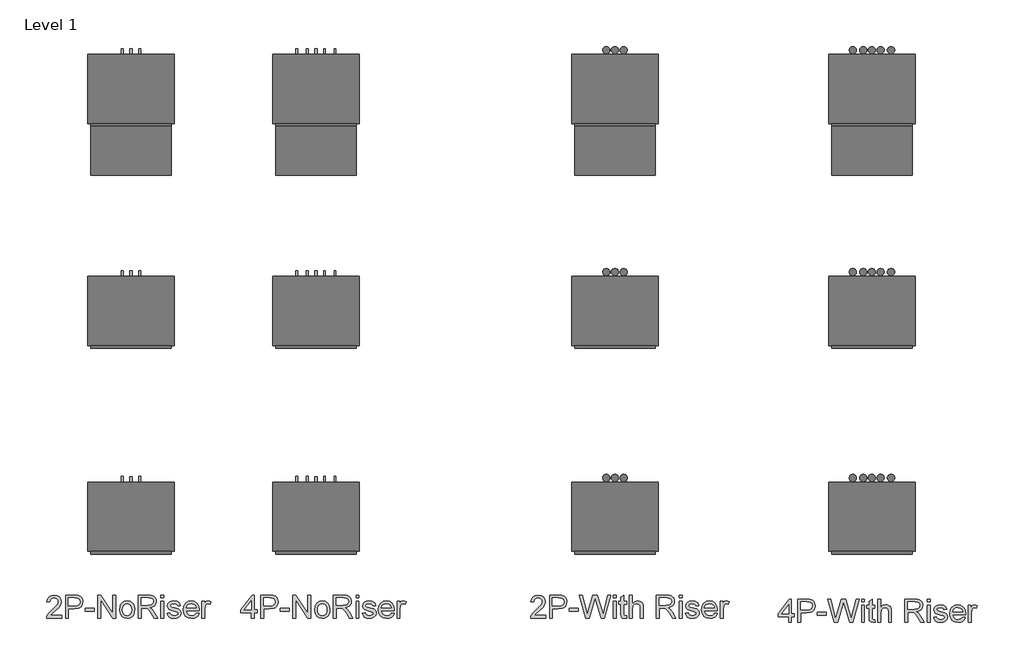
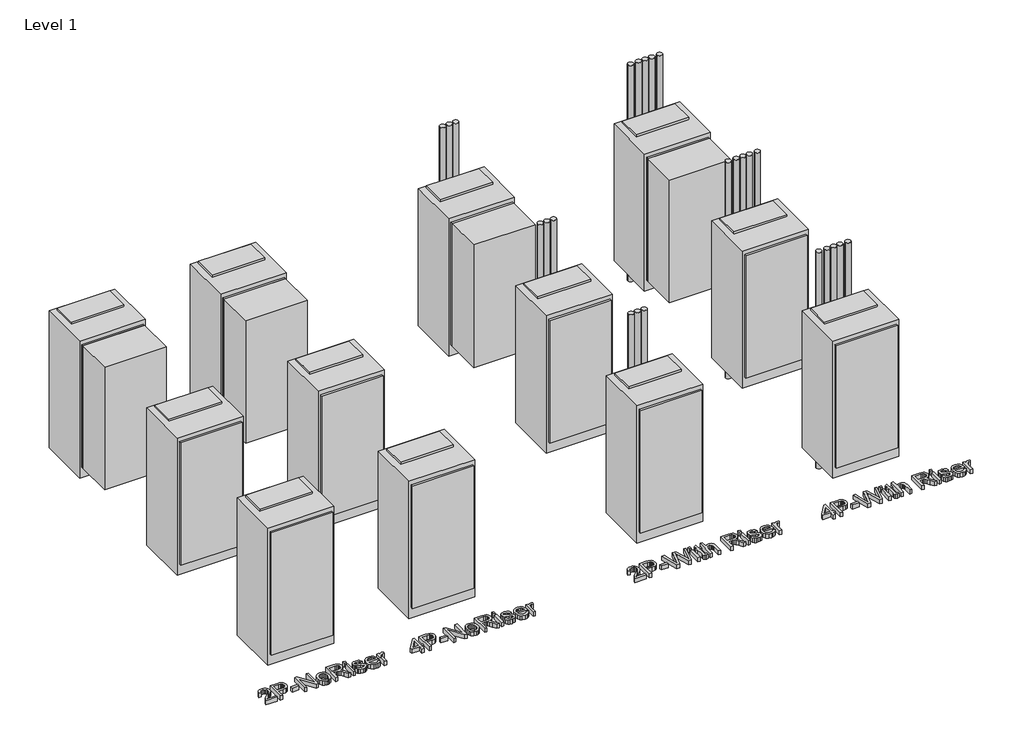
# One storey: 16 proxies.
"""IFC4 building model written with IfcOpenShell, lengths in millimetres."""

from ifc_helpers import new_model, si_unit, origin, origin_with_axes, place, context, project, spatial, polyline, outline, extrude, transform, mapped, element, save
from components import mechanical_equipment_e0f0739c, mechanical_equipment_ecb4c6be, mechanical_equipment_e25ba452, mechanical_equipment_c41c9c13, mechanical_equipment_80fa2937, mechanical_equipment_26e97b97, mechanical_equipment_36c7c29a, mechanical_equipment_b1ffde39

model = new_model("IFC4")

# Units and contexts
model_context = context("Model", 3, world=origin())
ifc_project = project(units=[si_unit("LENGTHUNIT", "METRE", prefix="MILLI")], contexts=[model_context])

# Site, building, storey
site = spatial("IfcSite", under=ifc_project)
building = spatial("IfcBuilding", under=site)
storey = spatial("IfcBuildingStorey", under=building, Name="Level 1", Elevation=0.0)

# Proxies
placement = place(None, origin())
mechanical_equipment_shape = mechanical_equipment_e0f0739c(model_context)
element("IfcBuildingElementProxy", 1, Name="Concealed_Modular_Fan_Coil_Unit_-_42SMA_-_CARRIER_-_2-Pipe_Cool-EHeat_-_NoRisers_2022 : Size 20 - 277v/60Hz/1Ph - 5 Row 12.0kW", ObjectType="Concealed_Modular_Fan_Coil_Unit_-_42SMA_-_CARRIER_-_2-Pipe_Cool-EHeat_-_NoRisers_2022 : Size 20 - 277v/60Hz/1Ph - 5 Row 12.0kW", at=placement, inside=storey, context=model_context, shape_type="MappedRepresentation", body=[
    mapped(mechanical_equipment_shape, transform((-20087.6915851, 2615.2980078, 0.0), x_axis=(1.0, 0.0, 0.0), y_axis=(0.0, 1.0, 0.0), z_axis=(0.0, 0.0, 1.0))),
])
mechanical_equipment_2_shape = mechanical_equipment_ecb4c6be(model_context)
element("IfcBuildingElementProxy", 2, Name="Concealed_Modular_Fan_Coil_Unit_-_42SMA_-_CARRIER_-_4-Pipe_-_NoRisers_2022 : Size 20 - 277v/60Hz/1Ph - 4/1 Coil", ObjectType="Concealed_Modular_Fan_Coil_Unit_-_42SMA_-_CARRIER_-_4-Pipe_-_NoRisers_2022 : Size 20 - 277v/60Hz/1Ph - 4/1 Coil", at=placement, inside=storey, context=model_context, shape_type="MappedRepresentation", body=[
    mapped(mechanical_equipment_2_shape, transform((-18457.1298194, 2615.2980078, 0.0), x_axis=(1.0, 0.0, 0.0), y_axis=(0.0, 1.0, 0.0), z_axis=(0.0, 0.0, 1.0))),
])
mechanical_equipment_3_shape = mechanical_equipment_e25ba452(model_context)
element("IfcBuildingElementProxy", 3, Name="Concealed_Modular_Fan_Coil_Unit_-_42SMA_-_CARRIER_-_2-Pipe_Cool-EHeat_-_WithRisers_2022 : Size 20 - 277v/60Hz/1Ph - 5 Row 12.0kW", ObjectType="Concealed_Modular_Fan_Coil_Unit_-_42SMA_-_CARRIER_-_2-Pipe_Cool-EHeat_-_WithRisers_2022 : Size 20 - 277v/60Hz/1Ph - 5 Row 12.0kW", at=placement, inside=storey, context=model_context, shape_type="MappedRepresentation", body=[
    mapped(mechanical_equipment_3_shape, transform((-15820.4915851, 2615.2980078, 0.0), x_axis=(1.0, 0.0, 0.0), y_axis=(0.0, 1.0, 0.0), z_axis=(0.0, 0.0, 1.0))),
])
mechanical_equipment_4_shape = mechanical_equipment_c41c9c13(model_context)
element("IfcBuildingElementProxy", 4, Name="Concealed_Modular_Fan_Coil_Unit_-_42SMA_-_CARRIER_-_4-Pipe_-_WithRisers_2022 : Size 20 - 277v/60Hz/1Ph - 4/1 Coil", ObjectType="Concealed_Modular_Fan_Coil_Unit_-_42SMA_-_CARRIER_-_4-Pipe_-_WithRisers_2022 : Size 20 - 277v/60Hz/1Ph - 4/1 Coil", at=placement, inside=storey, context=model_context, shape_type="MappedRepresentation", body=[
    mapped(mechanical_equipment_4_shape, transform((-13554.9298194, 2615.2980078, 0.0), x_axis=(1.0, 0.0, 0.0), y_axis=(0.0, 1.0, 0.0), z_axis=(0.0, 0.0, 1.0))),
])
mechanical_equipment_5_shape = mechanical_equipment_80fa2937(model_context)
element("IfcBuildingElementProxy", 5, Name="Concealed_Modular_Fan_Coil_Unit_-_42SMA_-_CARRIER_-_2-Pipe_Cool-EHeat_-_NoRisers_2022 : Size 16 - 277v/60Hz/1Ph - 5 Row 12.0kW", ObjectType="Concealed_Modular_Fan_Coil_Unit_-_42SMA_-_CARRIER_-_2-Pipe_Cool-EHeat_-_NoRisers_2022 : Size 16 - 277v/60Hz/1Ph - 5 Row 12.0kW", at=placement, inside=storey, context=model_context, shape_type="MappedRepresentation", body=[
    mapped(mechanical_equipment_5_shape, transform((-20087.6915851, 658.950504, 0.0), x_axis=(1.0, 0.0, 0.0), y_axis=(0.0, 1.0, 0.0), z_axis=(0.0, 0.0, 1.0))),
])
element("IfcBuildingElementProxy", 6, Name="Concealed_Modular_Fan_Coil_Unit_-_42SMA_-_CARRIER_-_2-Pipe_Cool-EHeat_-_NoRisers_2022 : Size 14 - 277v/60Hz/1Ph - 5 Row 12.0kW", ObjectType="Concealed_Modular_Fan_Coil_Unit_-_42SMA_-_CARRIER_-_2-Pipe_Cool-EHeat_-_NoRisers_2022 : Size 14 - 277v/60Hz/1Ph - 5 Row 12.0kW", at=placement, inside=storey, context=model_context, shape_type="MappedRepresentation", body=[
    mapped(mechanical_equipment_5_shape, transform((-20087.6915851, -1156.2031597, 0.0), x_axis=(1.0, 0.0, 0.0), y_axis=(0.0, 1.0, 0.0), z_axis=(0.0, 0.0, 1.0))),
])
mechanical_equipment_6_shape = mechanical_equipment_26e97b97(model_context)
element("IfcBuildingElementProxy", 7, Name="Concealed_Modular_Fan_Coil_Unit_-_42SMA_-_CARRIER_-_2-Pipe_Cool-EHeat_-_WithRisers_2022 : Size 16 - 277v/60Hz/1Ph - 5 Row 12.0kW", ObjectType="Concealed_Modular_Fan_Coil_Unit_-_42SMA_-_CARRIER_-_2-Pipe_Cool-EHeat_-_WithRisers_2022 : Size 16 - 277v/60Hz/1Ph - 5 Row 12.0kW", at=placement, inside=storey, context=model_context, shape_type="MappedRepresentation", body=[
    mapped(mechanical_equipment_6_shape, transform((-15820.4915851, 658.950504, 0.0), x_axis=(1.0, 0.0, 0.0), y_axis=(0.0, 1.0, 0.0), z_axis=(0.0, 0.0, 1.0))),
])
element("IfcBuildingElementProxy", 8, Name="Concealed_Modular_Fan_Coil_Unit_-_42SMA_-_CARRIER_-_2-Pipe_Cool-EHeat_-_WithRisers_2022 : Size 14 - 277v/60Hz/1Ph - 5 Row 12.0kW", ObjectType="Concealed_Modular_Fan_Coil_Unit_-_42SMA_-_CARRIER_-_2-Pipe_Cool-EHeat_-_WithRisers_2022 : Size 14 - 277v/60Hz/1Ph - 5 Row 12.0kW", at=placement, inside=storey, context=model_context, shape_type="MappedRepresentation", body=[
    mapped(mechanical_equipment_6_shape, transform((-15820.4915851, -1156.2031597, 0.0), x_axis=(1.0, 0.0, 0.0), y_axis=(0.0, 1.0, 0.0), z_axis=(0.0, 0.0, 1.0))),
])
mechanical_equipment_7_shape = mechanical_equipment_36c7c29a(model_context)
element("IfcBuildingElementProxy", 9, Name="Concealed_Modular_Fan_Coil_Unit_-_42SMA_-_CARRIER_-_4-Pipe_-_NoRisers_2022 : Size 16 - 277v/60Hz/1Ph - 4/1 Coil", ObjectType="Concealed_Modular_Fan_Coil_Unit_-_42SMA_-_CARRIER_-_4-Pipe_-_NoRisers_2022 : Size 16 - 277v/60Hz/1Ph - 4/1 Coil", at=placement, inside=storey, context=model_context, shape_type="MappedRepresentation", body=[
    mapped(mechanical_equipment_7_shape, transform((-18457.1298194, 658.950504, 0.0), x_axis=(1.0, 0.0, 0.0), y_axis=(0.0, 1.0, 0.0), z_axis=(0.0, 0.0, 1.0))),
])
element("IfcBuildingElementProxy", 10, Name="Concealed_Modular_Fan_Coil_Unit_-_42SMA_-_CARRIER_-_4-Pipe_-_NoRisers_2022 : Size 14 - 277v/60Hz/1Ph - 4/1 Coil", ObjectType="Concealed_Modular_Fan_Coil_Unit_-_42SMA_-_CARRIER_-_4-Pipe_-_NoRisers_2022 : Size 14 - 277v/60Hz/1Ph - 4/1 Coil", at=placement, inside=storey, context=model_context, shape_type="MappedRepresentation", body=[
    mapped(mechanical_equipment_7_shape, transform((-18457.1298194, -1156.2031597, 0.0), x_axis=(1.0, 0.0, 0.0), y_axis=(0.0, 1.0, 0.0), z_axis=(0.0, 0.0, 1.0))),
])
mechanical_equipment_8_shape = mechanical_equipment_b1ffde39(model_context)
element("IfcBuildingElementProxy", 11, Name="Concealed_Modular_Fan_Coil_Unit_-_42SMA_-_CARRIER_-_4-Pipe_-_WithRisers_2022 : Size 16 - 277v/60Hz/1Ph - 4/1 Coil", ObjectType="Concealed_Modular_Fan_Coil_Unit_-_42SMA_-_CARRIER_-_4-Pipe_-_WithRisers_2022 : Size 16 - 277v/60Hz/1Ph - 4/1 Coil", at=placement, inside=storey, context=model_context, shape_type="MappedRepresentation", body=[
    mapped(mechanical_equipment_8_shape, transform((-13554.9298194, 658.950504, 0.0), x_axis=(1.0, 0.0, 0.0), y_axis=(0.0, 1.0, 0.0), z_axis=(0.0, 0.0, 1.0))),
])
element("IfcBuildingElementProxy", 12, Name="Concealed_Modular_Fan_Coil_Unit_-_42SMA_-_CARRIER_-_4-Pipe_-_WithRisers_2022 : Size 14 - 277v/60Hz/1Ph - 4/1 Coil", ObjectType="Concealed_Modular_Fan_Coil_Unit_-_42SMA_-_CARRIER_-_4-Pipe_-_WithRisers_2022 : Size 14 - 277v/60Hz/1Ph - 4/1 Coil", at=placement, inside=storey, context=model_context, shape_type="MappedRepresentation", body=[
    mapped(mechanical_equipment_8_shape, transform((-13554.9298194, -1156.2031597, 0.0), x_axis=(1.0, 0.0, 0.0), y_axis=(0.0, 1.0, 0.0), z_axis=(0.0, 0.0, 1.0))),
])
element("IfcBuildingElementProxy", 13, Name="24\" Arial", ObjectType="24\" Arial", at=placement, inside=storey, context=model_context, shape_type="SweptSolid", body=[
    extrude(outline(polyline([(-20165.2964291, -2084.2431034), (-20165.2964291, -2109.6236945), (-20298.5445327, -2109.6236945), (-20295.818102, -2092.1249666), (-20280.4013758, -2065.1828742), (-20248.6260653, -2035.7622085), (-20204.8048884, -1993.477747), (-20196.5884177, -1978.9037357), (-20193.8495941, -1964.7262961), (-20196.4335069, -1952.0174112), (-20204.185245, -1941.4524923), (-20216.1009865, -1934.3327903), (-20231.1769089, -1931.9595563), (-20247.0087962, -1934.2770224), (-20259.3087165, -1941.2294207), (-20267.2463477, -1952.271465), (-20269.9913677, -1966.8578692), (-20295.3719588, -1963.6852953), (-20289.2189005, -1939.1350262), (-20275.915158, -1921.202548), (-20256.1547319, -1910.2348609), (-20230.6316228, -1906.5789652), (-20204.9226206, -1910.6438255), (-20185.1993731, -1922.8384064), (-20172.6515955, -1941.0559205), (-20168.469003, -1963.1895806), (-20172.9800065, -1987.2565279), (-20187.9753753, -2012.1414044), (-20224.3360464, -2046.9157886), (-20253.5336406, -2071.3297362), (-20264.9846495, -2084.2431034), (-20165.2964291, -2084.2431034)])), origin_with_axes(), (0.0, 0.0, 1.0), 50.8),
    extrude(outline(polyline([(-20130.3981162, -2109.6236945), (-20130.3981162, -1906.5789652), (-20055.1486291, -1906.5789652), (-20024.8108912, -1908.5122524), (-20000.1490863, -1918.0051883), (-19991.1828472, -1926.4199449), (-19984.1622882, -1937.6354893), (-19979.6264989, -1950.8648746), (-19978.1145692, -1965.3211537), (-19982.1980188, -1989.2517795), (-19994.4483676, -2009.1919021), (-20004.2588708, -2017.0427832), (-20017.3565818, -2022.6505554), (-20053.4136278, -2027.1367732), (-20105.017525, -2027.1367732), (-20105.017525, -2109.6236945), (-20130.3981162, -2109.6236945)]), holes=[polyline([(-20105.017525, -2001.756182), (-20051.9264837, -2001.756182), (-20029.4210377, -1999.4263231), (-20014.5495975, -1992.4367462), (-20006.2587696, -1981.2212018), (-20003.4951603, -1966.2134401), (-20005.1248223, -1954.8120027), (-20010.0138083, -1945.195138), (-20017.5548677, -1937.9577038), (-20027.1407502, -1933.6945577), (-20052.5213413, -1931.9595563), (-20105.017525, -1931.9595563), (-20105.017525, -2001.756182)])]), origin_with_axes(), (0.0, 0.0, 1.0), 50.8),
    extrude(outline(polyline([(-19959.0791258, -2049.3447905), (-19959.0791258, -2023.9641993), (-19879.7647784, -2023.9641993), (-19879.7647784, -2049.3447905), (-19959.0791258, -2049.3447905)])), origin_with_axes(), (0.0, 0.0, 1.0), 50.8),
    extrude(outline(polyline([(-19848.0390394, -2109.6236945), (-19848.0390394, -1906.5789652), (-19820.8738754, -1906.5789652), (-19714.7909358, -2067.438376), (-19714.7909358, -1906.5789652), (-19689.4103446, -1906.5789652), (-19689.4103446, -2109.6236945), (-19716.5755086, -2109.6236945), (-19822.6584482, -1948.7147122), (-19822.6584482, -2109.6236945), (-19848.0390394, -2109.6236945)])), origin_with_axes(), (0.0, 0.0, 1.0), 50.8),
    extrude(outline(polyline([(-19654.5120317, -2035.068208), (-19649.0219917, -1999.1165014), (-19642.1594418, -1985.1466423), (-19632.5518718, -1973.8474461), (-19612.2027845, -1961.4669721), (-19587.8384084, -1957.3401475), (-19561.1751555, -1962.365455), (-19539.878014, -1977.4413774), (-19525.9174496, -2001.3781996), (-19521.2639281, -2032.9862063), (-19523.321144, -2058.6270477), (-19529.4927916, -2078.1458129), (-19539.5991745, -2092.7631993), (-19553.460596, -2103.6999042), (-19569.9245195, -2110.5221774), (-19587.8384084, -2112.7962684), (-19614.8238759, -2107.7895502), (-19636.0962317, -2092.7693957), (-19649.9080817, -2068.3306624), (-19654.5120317, -2035.068208)]), holes=[polyline([(-19629.1314406, -2035.0186365), (-19626.1943311, -2057.9888151), (-19617.3830028, -2074.3535957), (-19604.1226354, -2084.1501569), (-19587.8384084, -2087.4156773), (-19571.6285387, -2084.1315676), (-19558.392957, -2074.2792385), (-19549.5816287, -2057.6975827), (-19546.6445192, -2034.225493), (-19549.600218, -2011.9245292), (-19558.4673142, -1995.7828203), (-19571.7214852, -1985.9862591), (-19587.8384084, -1982.7207387), (-19604.1226354, -1985.9738662), (-19617.3830028, -1995.7332488), (-19626.1943311, -2012.0608508), (-19629.1314406, -2035.0186365)])]), origin_with_axes(), (0.0, 0.0, 1.0), 50.8),
    extrude(outline(polyline([(-19489.5381891, -2109.6236945), (-19489.5381891, -1906.5789652), (-19402.0445496, -1906.5789652), (-19378.5290849, -1907.9483769), (-19361.4207323, -1912.0566123), (-19348.9163297, -1919.6410467), (-19339.212715, -1931.4390559), (-19332.9852995, -1946.0688352), (-19330.9094943, -1962.1485798), (-19334.3485148, -1982.1506668), (-19344.6655764, -1998.7323226), (-19362.1705007, -2010.8897249), (-19387.1731095, -2017.6190515), (-19372.7478125, -2028.4752028), (-19352.1756537, -2054.599366), (-19318.3183416, -2109.6236945), (-19347.8133646, -2109.6236945), (-19374.2349566, -2067.5375189), (-19393.3199714, -2039.6783544), (-19406.7290533, -2026.5171299), (-19418.7997055, -2021.6839118), (-19433.5224312, -2020.7916254), (-19464.1575979, -2020.7916254), (-19464.1575979, -2109.6236945), (-19489.5381891, -2109.6236945)]), holes=[polyline([(-19464.1575979, -1995.4110343), (-19407.3486966, -1995.4110343), (-19378.3741741, -1991.8171029), (-19368.8440595, -1987.1449921), (-19361.916447, -1980.3165225), (-19356.2900855, -1963.0904377), (-19358.9731411, -1950.7099638), (-19367.0223081, -1940.733706), (-19380.8713367, -1934.1530937), (-19400.9539773, -1931.9595563), (-19464.1575979, -1931.9595563), (-19464.1575979, -1995.4110343)])]), origin_with_axes(), (0.0, 0.0, 1.0), 50.8),
    extrude(outline(polyline([(-19289.6660336, -1931.9595563), (-19289.6660336, -1906.5789652), (-19264.2854425, -1906.5789652), (-19264.2854425, -1931.9595563), (-19289.6660336, -1931.9595563)])), origin_with_axes(), (0.0, 0.0, 1.0), 50.8),
    extrude(outline(polyline([(-19289.6660336, -2109.6236945), (-19289.6660336, -1960.5127214), (-19264.2854425, -1960.5127214), (-19264.2854425, -2109.6236945), (-19289.6660336, -2109.6236945)])), origin_with_axes(), (0.0, 0.0, 1.0), 50.8),
    extrude(outline(polyline([(-19235.7322774, -2065.20766), (-19210.3516862, -2062.0350861), (-19206.3487902, -2072.8912374), (-19198.6032485, -2080.8722436), (-19187.0654895, -2085.7798188), (-19171.6859418, -2087.4156773), (-19156.4922872, -2085.9161404), (-19145.809636, -2081.4175297), (-19139.4892739, -2074.8988818), (-19137.3824866, -2067.3392331), (-19139.5016668, -2060.8701566), (-19145.8592075, -2055.9377956), (-19171.9833707, -2048.7003614), (-19210.2029718, -2036.2827089), (-19219.8756043, -2030.0429005), (-19226.8837705, -2021.7830548), (-19232.5597035, -2001.3100388), (-19227.9991285, -1982.3985241), (-19215.5566903, -1967.9484415), (-19199.4211777, -1960.4383642), (-19177.5849464, -1957.3401475), (-19146.7019224, -1962.3220799), (-19135.1517706, -1968.1839059), (-19127.0716214, -1975.805519), (-19118.3470432, -1998.5836082), (-19143.7276344, -2001.756182), (-19146.9311904, -1993.7689794), (-19153.2701418, -1987.7522426), (-19175.6020878, -1982.7207387), (-19190.1760991, -1983.9228467), (-19199.8921066, -1987.529171), (-19205.3573609, -1992.734175), (-19207.1791123, -1998.7323226), (-19204.1552528, -2006.1184712), (-19194.6871026, -2011.7200469), (-19172.8260856, -2017.1233369), (-19135.573128, -2029.0700604), (-19118.272686, -2042.603071), (-19113.5695931, -2052.554543), (-19112.0018954, -2064.6623738), (-19113.8422361, -2077.1791693), (-19119.3632583, -2088.9523927), (-19128.3542831, -2099.0587756), (-19140.604632, -2106.5750493), (-19155.4017149, -2111.2409636), (-19172.0329421, -2112.7962684), (-19197.624212, -2109.7971947), (-19216.3002623, -2100.7999734), (-19228.7674863, -2085.9037475), (-19235.7322774, -2065.20766)])), origin_with_axes(), (0.0, 0.0, 1.0), 50.8),
    extrude(outline(polyline([(-18979.0512206, -2065.20766), (-18954.1663441, -2068.3802339), (-18963.1325832, -2087.1306413), (-18977.4401479, -2101.1469736), (-18996.7668236, -2109.8839447), (-19020.7903959, -2112.7962684), (-19050.5704548, -2107.7709609), (-19073.4848655, -2092.6950385), (-19088.0960554, -2068.5475376), (-19092.966452, -2036.3074946), (-19088.0464839, -2002.9830759), (-19081.8965238, -1989.4717528), (-19073.2865796, -1978.0610208), (-19050.6819906, -1962.5203658), (-19022.2279684, -1957.3401475), (-18994.6600363, -1962.5079729), (-18972.6317156, -1978.0114493), (-18958.1878293, -2002.8839329), (-18953.3732006, -2036.1587802), (-18953.521915, -2042.9996427), (-19067.5858609, -2042.9996427), (-19063.1925896, -2061.9979075), (-19052.9870638, -2075.9646683), (-19038.2581416, -2084.552925), (-19020.2946812, -2087.4156773), (-18995.4098047, -2082.1115303), (-18986.1647261, -2075.2334892), (-18979.0512206, -2065.20766)]), holes=[polyline([(-19067.5858609, -2017.6190515), (-18978.7537918, -2017.6190515), (-18982.1866159, -2004.2099697), (-18988.9159425, -1994.6178908), (-19003.7130255, -1985.6950267), (-19022.3271114, -1982.7207387), (-19039.435464, -1985.0939727), (-19053.5819214, -1992.2136746), (-19063.4156612, -2003.3114868), (-19067.5858609, -2017.6190515)])]), origin_with_axes(), (0.0, 0.0, 1.0), 50.8),
    extrude(outline(polyline([(-18927.9926094, -2109.6236945), (-18927.9926094, -1960.5127214), (-18905.7845921, -1960.5127214), (-18905.7845921, -1982.5720243), (-18890.0208656, -1962.2477227), (-18874.1579961, -1957.3401475), (-18861.517272, -1959.2982204), (-18848.678262, -1965.1724393), (-18857.1549829, -1987.9257427), (-18875.0007111, -1982.7207387), (-18889.3516508, -1987.7274568), (-18898.4975865, -2001.6074676), (-18902.6120182, -2031.251205), (-18902.6120182, -2109.6236945), (-18927.9926094, -2109.6236945)])), origin_with_axes(), (0.0, 0.0, 1.0), 50.8),
])
element("IfcBuildingElementProxy", 14, Name="24\" Arial", ObjectType="24\" Arial", at=placement, inside=storey, context=model_context, shape_type="SweptSolid", body=[
    extrude(outline(polyline([(-18492.6051491, -2109.6236945), (-18492.6051491, -2062.0350861), (-18584.6097921, -2062.0350861), (-18584.6097921, -2036.6544949), (-18486.2600013, -1909.751539), (-18467.2245579, -1909.751539), (-18467.2245579, -2036.6544949), (-18441.8439667, -2036.6544949), (-18441.8439667, -2062.0350861), (-18467.2245579, -2062.0350861), (-18467.2245579, -2109.6236945), (-18492.6051491, -2109.6236945)]), holes=[polyline([(-18492.6051491, -2036.6544949), (-18492.6051491, -1958.2324339), (-18553.3797678, -2036.6544949), (-18492.6051491, -2036.6544949)])]), origin_with_axes(), (0.0, 0.0, 1.0), 50.8),
    extrude(outline(polyline([(-18410.1182278, -2109.6236945), (-18410.1182278, -1906.5789652), (-18334.8687407, -1906.5789652), (-18304.5310028, -1908.5122524), (-18279.8691979, -1918.0051883), (-18270.9029588, -1926.4199449), (-18263.8823997, -1937.6354893), (-18259.3466105, -1950.8648746), (-18257.8346807, -1965.3211537), (-18261.9181303, -1989.2517795), (-18274.1684792, -2009.1919021), (-18283.9789823, -2017.0427832), (-18297.0766934, -2022.6505554), (-18333.1337393, -2027.1367732), (-18384.7376366, -2027.1367732), (-18384.7376366, -2109.6236945), (-18410.1182278, -2109.6236945)]), holes=[polyline([(-18384.7376366, -2001.756182), (-18331.6465953, -2001.756182), (-18309.1411492, -1999.4263231), (-18294.2697091, -1992.4367462), (-18285.9788812, -1981.2212018), (-18283.2152719, -1966.2134401), (-18284.8449339, -1954.8120027), (-18289.7339198, -1945.195138), (-18297.2749793, -1937.9577038), (-18306.8608617, -1933.6945577), (-18332.2414529, -1931.9595563), (-18384.7376366, -1931.9595563), (-18384.7376366, -2001.756182)])]), origin_with_axes(), (0.0, 0.0, 1.0), 50.8),
    extrude(outline(polyline([(-18238.7992374, -2049.3447905), (-18238.7992374, -2023.9641993), (-18159.4848899, -2023.9641993), (-18159.4848899, -2049.3447905), (-18238.7992374, -2049.3447905)])), origin_with_axes(), (0.0, 0.0, 1.0), 50.8),
    extrude(outline(polyline([(-18127.759151, -2109.6236945), (-18127.759151, -1906.5789652), (-18100.593987, -1906.5789652), (-17994.5110473, -2067.438376), (-17994.5110473, -1906.5789652), (-17969.1304562, -1906.5789652), (-17969.1304562, -2109.6236945), (-17996.2956201, -2109.6236945), (-18102.3785598, -1948.7147122), (-18102.3785598, -2109.6236945), (-18127.759151, -2109.6236945)])), origin_with_axes(), (0.0, 0.0, 1.0), 50.8),
    extrude(outline(polyline([(-17934.2321433, -2035.068208), (-17928.7421033, -1999.1165014), (-17921.8795533, -1985.1466423), (-17912.2719834, -1973.8474461), (-17891.9228961, -1961.4669721), (-17867.55852, -1957.3401475), (-17840.8952671, -1962.365455), (-17819.5981255, -1977.4413774), (-17805.6375611, -2001.3781996), (-17800.9840396, -2032.9862063), (-17803.0412555, -2058.6270477), (-17809.2129032, -2078.1458129), (-17819.319286, -2092.7631993), (-17833.1807075, -2103.6999042), (-17849.6446311, -2110.5221774), (-17867.55852, -2112.7962684), (-17894.5439874, -2107.7895502), (-17915.8163433, -2092.7693957), (-17929.6281933, -2068.3306624), (-17934.2321433, -2035.068208)]), holes=[polyline([(-17908.8515521, -2035.0186365), (-17905.9144427, -2057.9888151), (-17897.1031144, -2074.3535957), (-17883.8427469, -2084.1501569), (-17867.55852, -2087.4156773), (-17851.3486502, -2084.1315676), (-17838.1130685, -2074.2792385), (-17829.3017402, -2057.6975827), (-17826.3646308, -2034.225493), (-17829.3203295, -2011.9245292), (-17838.1874257, -1995.7828203), (-17851.4415967, -1985.9862591), (-17867.55852, -1982.7207387), (-17883.8427469, -1985.9738662), (-17897.1031144, -1995.7332488), (-17905.9144427, -2012.0608508), (-17908.8515521, -2035.0186365)])]), origin_with_axes(), (0.0, 0.0, 1.0), 50.8),
    extrude(outline(polyline([(-17769.2583007, -2109.6236945), (-17769.2583007, -1906.5789652), (-17681.7646612, -1906.5789652), (-17658.2491965, -1907.9483769), (-17641.1408439, -1912.0566123), (-17628.6364413, -1919.6410467), (-17618.9328266, -1931.4390559), (-17612.705411, -1946.0688352), (-17610.6296058, -1962.1485798), (-17614.0686264, -1982.1506668), (-17624.385688, -1998.7323226), (-17641.8906123, -2010.8897249), (-17666.893221, -2017.6190515), (-17652.4679241, -2028.4752028), (-17631.8957652, -2054.599366), (-17598.0384532, -2109.6236945), (-17627.5334761, -2109.6236945), (-17653.9550681, -2067.5375189), (-17673.040083, -2039.6783544), (-17686.4491648, -2026.5171299), (-17698.5198171, -2021.6839118), (-17713.2425428, -2020.7916254), (-17743.8777095, -2020.7916254), (-17743.8777095, -2109.6236945), (-17769.2583007, -2109.6236945)]), holes=[polyline([(-17743.8777095, -1995.4110343), (-17687.0688082, -1995.4110343), (-17658.0942856, -1991.8171029), (-17648.5641711, -1987.1449921), (-17641.6365585, -1980.3165225), (-17636.010197, -1963.0904377), (-17638.6932527, -1950.7099638), (-17646.7424196, -1940.733706), (-17660.5914483, -1934.1530937), (-17680.6740889, -1931.9595563), (-17743.8777095, -1931.9595563), (-17743.8777095, -1995.4110343)])]), origin_with_axes(), (0.0, 0.0, 1.0), 50.8),
    extrude(outline(polyline([(-17569.3861452, -1931.9595563), (-17569.3861452, -1906.5789652), (-17544.005554, -1906.5789652), (-17544.005554, -1931.9595563), (-17569.3861452, -1931.9595563)])), origin_with_axes(), (0.0, 0.0, 1.0), 50.8),
    extrude(outline(polyline([(-17569.3861452, -2109.6236945), (-17569.3861452, -1960.5127214), (-17544.005554, -1960.5127214), (-17544.005554, -2109.6236945), (-17569.3861452, -2109.6236945)])), origin_with_axes(), (0.0, 0.0, 1.0), 50.8),
    extrude(outline(polyline([(-17515.4523889, -2065.20766), (-17490.0717978, -2062.0350861), (-17486.0689018, -2072.8912374), (-17478.3233601, -2080.8722436), (-17466.7856011, -2085.7798188), (-17451.4060534, -2087.4156773), (-17436.2123987, -2085.9161404), (-17425.5297476, -2081.4175297), (-17419.2093855, -2074.8988818), (-17417.1025982, -2067.3392331), (-17419.2217784, -2060.8701566), (-17425.579319, -2055.9377956), (-17451.7034822, -2048.7003614), (-17489.9230834, -2036.2827089), (-17499.5957159, -2030.0429005), (-17506.6038821, -2021.7830548), (-17512.2798151, -2001.3100388), (-17507.7192401, -1982.3985241), (-17495.2768018, -1967.9484415), (-17479.1412893, -1960.4383642), (-17457.305058, -1957.3401475), (-17426.422034, -1962.3220799), (-17414.8718821, -1968.1839059), (-17406.791733, -1975.805519), (-17398.0671548, -1998.5836082), (-17423.4477459, -2001.756182), (-17426.651302, -1993.7689794), (-17432.9902534, -1987.7522426), (-17455.3221993, -1982.7207387), (-17469.8962107, -1983.9228467), (-17479.6122182, -1987.529171), (-17485.0774725, -1992.734175), (-17486.8992239, -1998.7323226), (-17483.8753644, -2006.1184712), (-17474.4072142, -2011.7200469), (-17452.5461972, -2017.1233369), (-17415.2932396, -2029.0700604), (-17397.9927976, -2042.603071), (-17393.2897046, -2052.554543), (-17391.722007, -2064.6623738), (-17393.5623477, -2077.1791693), (-17399.0833699, -2088.9523927), (-17408.0743947, -2099.0587756), (-17420.3247435, -2106.5750493), (-17435.1218265, -2111.2409636), (-17451.7530537, -2112.7962684), (-17477.3443236, -2109.7971947), (-17496.0203738, -2100.7999734), (-17508.4875978, -2085.9037475), (-17515.4523889, -2065.20766)])), origin_with_axes(), (0.0, 0.0, 1.0), 50.8),
    extrude(outline(polyline([(-17258.7713321, -2065.20766), (-17233.8864556, -2068.3802339), (-17242.8526947, -2087.1306413), (-17257.1602594, -2101.1469736), (-17276.4869352, -2109.8839447), (-17300.5105075, -2112.7962684), (-17330.2905663, -2107.7709609), (-17353.204977, -2092.6950385), (-17367.816167, -2068.5475376), (-17372.6865636, -2036.3074946), (-17367.7665955, -2002.9830759), (-17361.6166353, -1989.4717528), (-17353.0066912, -1978.0610208), (-17330.4021021, -1962.5203658), (-17301.94808, -1957.3401475), (-17274.3801478, -1962.5079729), (-17252.3518271, -1978.0114493), (-17237.9079409, -2002.8839329), (-17233.0933122, -2036.1587802), (-17233.2420266, -2042.9996427), (-17347.3059724, -2042.9996427), (-17342.9127012, -2061.9979075), (-17332.7071754, -2075.9646683), (-17317.9782532, -2084.552925), (-17300.0147928, -2087.4156773), (-17275.1299163, -2082.1115303), (-17265.8848377, -2075.2334892), (-17258.7713321, -2065.20766)]), holes=[polyline([(-17347.3059724, -2017.6190515), (-17258.4739033, -2017.6190515), (-17261.9067274, -2004.2099697), (-17268.6360541, -1994.6178908), (-17283.433137, -1985.6950267), (-17302.0472229, -1982.7207387), (-17319.1555755, -1985.0939727), (-17333.302033, -1992.2136746), (-17343.1357728, -2003.3114868), (-17347.3059724, -2017.6190515)])]), origin_with_axes(), (0.0, 0.0, 1.0), 50.8),
    extrude(outline(polyline([(-17207.712721, -2109.6236945), (-17207.712721, -1960.5127214), (-17185.5047037, -1960.5127214), (-17185.5047037, -1982.5720243), (-17169.7409772, -1962.2477227), (-17153.8781077, -1957.3401475), (-17141.2373836, -1959.2982204), (-17128.3983736, -1965.1724393), (-17136.8750944, -1987.9257427), (-17154.7208226, -1982.7207387), (-17169.0717624, -1987.7274568), (-17178.217698, -2001.6074676), (-17182.3321298, -2031.251205), (-17182.3321298, -2109.6236945), (-17207.712721, -2109.6236945)])), origin_with_axes(), (0.0, 0.0, 1.0), 50.8),
])
element("IfcBuildingElementProxy", 15, Name="24\" Arial", ObjectType="24\" Arial", at=placement, inside=storey, context=model_context, shape_type="SweptSolid", body=[
    extrude(outline(polyline([(-15898.0964291, -2084.2431034), (-15898.0964291, -2109.6236945), (-16031.3445327, -2109.6236945), (-16028.618102, -2092.1249666), (-16013.2013758, -2065.1828742), (-15981.4260653, -2035.7622085), (-15937.6048884, -1993.477747), (-15929.3884177, -1978.9037357), (-15926.6495941, -1964.7262961), (-15929.2335069, -1952.0174112), (-15936.985245, -1941.4524923), (-15948.9009865, -1934.3327903), (-15963.9769089, -1931.9595563), (-15979.8087962, -1934.2770224), (-15992.1087165, -1941.2294207), (-16000.0463477, -1952.271465), (-16002.7913677, -1966.8578692), (-16028.1719588, -1963.6852953), (-16022.0189005, -1939.1350262), (-16008.715158, -1921.202548), (-15988.9547319, -1910.2348609), (-15963.4316228, -1906.5789652), (-15937.7226206, -1910.6438255), (-15917.9993731, -1922.8384064), (-15905.4515955, -1941.0559205), (-15901.269003, -1963.1895806), (-15905.7800065, -1987.2565279), (-15920.7753753, -2012.1414044), (-15957.1360464, -2046.9157886), (-15986.3336406, -2071.3297362), (-15997.7846495, -2084.2431034), (-15898.0964291, -2084.2431034)])), origin_with_axes(), (0.0, 0.0, 1.0), 50.8),
    extrude(outline(polyline([(-15863.1981162, -2109.6236945), (-15863.1981162, -1906.5789652), (-15787.9486291, -1906.5789652), (-15757.6108912, -1908.5122524), (-15732.9490863, -1918.0051883), (-15723.9828472, -1926.4199449), (-15716.9622882, -1937.6354893), (-15712.4264989, -1950.8648746), (-15710.9145692, -1965.3211537), (-15714.9980188, -1989.2517795), (-15727.2483676, -2009.1919021), (-15737.0588708, -2017.0427832), (-15750.1565818, -2022.6505554), (-15786.2136278, -2027.1367732), (-15837.817525, -2027.1367732), (-15837.817525, -2109.6236945), (-15863.1981162, -2109.6236945)]), holes=[polyline([(-15837.817525, -2001.756182), (-15784.7264837, -2001.756182), (-15762.2210377, -1999.4263231), (-15747.3495975, -1992.4367462), (-15739.0587696, -1981.2212018), (-15736.2951603, -1966.2134401), (-15737.9248223, -1954.8120027), (-15742.8138083, -1945.195138), (-15750.3548677, -1937.9577038), (-15759.9407502, -1933.6945577), (-15785.3213413, -1931.9595563), (-15837.817525, -1931.9595563), (-15837.817525, -2001.756182)])]), origin_with_axes(), (0.0, 0.0, 1.0), 50.8),
    extrude(outline(polyline([(-15691.8791258, -2049.3447905), (-15691.8791258, -2023.9641993), (-15612.5647784, -2023.9641993), (-15612.5647784, -2049.3447905), (-15691.8791258, -2049.3447905)])), origin_with_axes(), (0.0, 0.0, 1.0), 50.8),
    extrude(outline(polyline([(-15544.503154, -2109.6236945), (-15599.8744828, -1906.5789652), (-15573.7007482, -1906.5789652), (-15541.5784374, -2040.0253547), (-15531.664144, -2081.2192439), (-15521.0558501, -2044.7842155), (-15480.8038187, -1906.5789652), (-15443.0799323, -1906.5789652), (-15413.8327666, -2006.7629002), (-15401.3035783, -2043.9415006), (-15392.0708926, -2081.2192439), (-15382.4540279, -2041.2150699), (-15350.0342884, -1906.5789652), (-15323.8605538, -1906.5789652), (-15379.2814541, -2109.6236945), (-15406.3970466, -2109.6236945), (-15455.0762273, -1952.9778584), (-15461.8675183, -1931.1168414), (-15469.5015242, -1957.4392904), (-15513.8679873, -2109.6236945), (-15544.503154, -2109.6236945)])), origin_with_axes(), (0.0, 0.0, 1.0), 50.8),
    extrude(outline(polyline([(-15301.6525365, -1931.9595563), (-15301.6525365, -1906.5789652), (-15276.2719453, -1906.5789652), (-15276.2719453, -1931.9595563), (-15301.6525365, -1931.9595563)])), origin_with_axes(), (0.0, 0.0, 1.0), 50.8),
    extrude(outline(polyline([(-15301.6525365, -2109.6236945), (-15301.6525365, -1960.5127214), (-15276.2719453, -1960.5127214), (-15276.2719453, -2109.6236945), (-15301.6525365, -2109.6236945)])), origin_with_axes(), (0.0, 0.0, 1.0), 50.8),
    extrude(outline(polyline([(-15184.2673023, -2088.4566781), (-15181.0947285, -2110.3672665), (-15200.0806004, -2112.7962684), (-15221.3467598, -2108.5826937), (-15231.9550537, -2097.5282565), (-15235.0284847, -2068.7272341), (-15235.0284847, -1985.8933126), (-15254.0639281, -1985.8933126), (-15254.0639281, -1960.5127214), (-15235.0284847, -1960.5127214), (-15235.0284847, -1924.2759789), (-15209.6478935, -1909.3549673), (-15209.6478935, -1960.5127214), (-15184.2673023, -1960.5127214), (-15184.2673023, -1985.8933126), (-15209.6478935, -1985.8933126), (-15209.6478935, -2067.9836621), (-15208.3094639, -2081.0705295), (-15203.9719605, -2085.7054616), (-15195.3217395, -2087.4156773), (-15184.2673023, -2088.4566781)])), origin_with_axes(), (0.0, 0.0, 1.0), 50.8),
    extrude(outline(polyline([(-15158.8867112, -2109.6236945), (-15158.8867112, -1906.5789652), (-15133.50612, -1906.5789652), (-15133.50612, -1981.2335947), (-15113.7147118, -1963.3135093), (-15089.3379428, -1957.3401475), (-15074.0079666, -1958.9698095), (-15060.8343492, -1963.8587954), (-15050.4615197, -1971.6229265), (-15043.5339072, -1981.8780237), (-15039.6301541, -1995.9687133), (-15038.3289031, -2015.2396211), (-15038.3289031, -2109.6236945), (-15063.7094943, -2109.6236945), (-15063.7094943, -2017.8669089), (-15065.7295316, -2001.9792536), (-15071.7896434, -1991.0983166), (-15081.5552224, -1984.8151332), (-15094.6916612, -1982.7207387), (-15115.4868917, -1988.3718859), (-15123.827291, -1995.0268554), (-15129.3669025, -2003.6894693), (-15133.50612, -2030.4084901), (-15133.50612, -2109.6236945), (-15158.8867112, -2109.6236945)])), origin_with_axes(), (0.0, 0.0, 1.0), 50.8),
    extrude(outline(polyline([(-14920.9436689, -2109.6236945), (-14920.9436689, -1906.5789652), (-14833.4500294, -1906.5789652), (-14809.9345647, -1907.9483769), (-14792.8262121, -1912.0566123), (-14780.3218095, -1919.6410467), (-14770.6181949, -1931.4390559), (-14764.3907793, -1946.0688352), (-14762.3149741, -1962.1485798), (-14765.7539946, -1982.1506668), (-14776.0710562, -1998.7323226), (-14793.5759806, -2010.8897249), (-14818.5785893, -2017.6190515), (-14804.1532924, -2028.4752028), (-14783.5811335, -2054.599366), (-14749.7238215, -2109.6236945), (-14779.2188444, -2109.6236945), (-14805.6404364, -2067.5375189), (-14824.7254512, -2039.6783544), (-14838.1345331, -2026.5171299), (-14850.2051853, -2021.6839118), (-14864.9279111, -2020.7916254), (-14895.5630778, -2020.7916254), (-14895.5630778, -2109.6236945), (-14920.9436689, -2109.6236945)]), holes=[polyline([(-14895.5630778, -1995.4110343), (-14838.7541764, -1995.4110343), (-14809.7796539, -1991.8171029), (-14800.2495393, -1987.1449921), (-14793.3219268, -1980.3165225), (-14787.6955653, -1963.0904377), (-14790.3786209, -1950.7099638), (-14798.4277879, -1940.733706), (-14812.2768165, -1934.1530937), (-14832.3594572, -1931.9595563), (-14895.5630778, -1931.9595563), (-14895.5630778, -1995.4110343)])]), origin_with_axes(), (0.0, 0.0, 1.0), 50.8),
    extrude(outline(polyline([(-14721.0715135, -1931.9595563), (-14721.0715135, -1906.5789652), (-14695.6909223, -1906.5789652), (-14695.6909223, -1931.9595563), (-14721.0715135, -1931.9595563)])), origin_with_axes(), (0.0, 0.0, 1.0), 50.8),
    extrude(outline(polyline([(-14721.0715135, -2109.6236945), (-14721.0715135, -1960.5127214), (-14695.6909223, -1960.5127214), (-14695.6909223, -2109.6236945), (-14721.0715135, -2109.6236945)])), origin_with_axes(), (0.0, 0.0, 1.0), 50.8),
    extrude(outline(polyline([(-14667.1377572, -2065.20766), (-14641.757166, -2062.0350861), (-14637.7542701, -2072.8912374), (-14630.0087283, -2080.8722436), (-14618.4709694, -2085.7798188), (-14603.0914217, -2087.4156773), (-14587.897767, -2085.9161404), (-14577.2151158, -2081.4175297), (-14570.8947538, -2074.8988818), (-14568.7879664, -2067.3392331), (-14570.9071466, -2060.8701566), (-14577.2646873, -2055.9377956), (-14603.3888505, -2048.7003614), (-14641.6084516, -2036.2827089), (-14651.2810842, -2030.0429005), (-14658.2892503, -2021.7830548), (-14663.9651833, -2001.3100388), (-14659.4046083, -1982.3985241), (-14646.9621701, -1967.9484415), (-14630.8266575, -1960.4383642), (-14608.9904263, -1957.3401475), (-14578.1074022, -1962.3220799), (-14566.5572504, -1968.1839059), (-14558.4771013, -1975.805519), (-14549.752523, -1998.5836082), (-14575.1331142, -2001.756182), (-14578.3366703, -1993.7689794), (-14584.6756216, -1987.7522426), (-14607.0075676, -1982.7207387), (-14621.5815789, -1983.9228467), (-14631.2975865, -1987.529171), (-14636.7628407, -1992.734175), (-14638.5845921, -1998.7323226), (-14635.5607326, -2006.1184712), (-14626.0925824, -2011.7200469), (-14604.2315654, -2017.1233369), (-14566.9786079, -2029.0700604), (-14549.6781658, -2042.603071), (-14544.9750729, -2052.554543), (-14543.4073752, -2064.6623738), (-14545.247716, -2077.1791693), (-14550.7687381, -2088.9523927), (-14559.759763, -2099.0587756), (-14572.0101118, -2106.5750493), (-14586.8071947, -2111.2409636), (-14603.4384219, -2112.7962684), (-14629.0296919, -2109.7971947), (-14647.7057421, -2100.7999734), (-14660.1729661, -2085.9037475), (-14667.1377572, -2065.20766)])), origin_with_axes(), (0.0, 0.0, 1.0), 50.8),
    extrude(outline(polyline([(-14410.4567004, -2065.20766), (-14385.5718239, -2068.3802339), (-14394.538063, -2087.1306413), (-14408.8456277, -2101.1469736), (-14428.1723035, -2109.8839447), (-14452.1958757, -2112.7962684), (-14481.9759346, -2107.7709609), (-14504.8903453, -2092.6950385), (-14519.5015352, -2068.5475376), (-14524.3719319, -2036.3074946), (-14519.4519638, -2002.9830759), (-14513.3020036, -1989.4717528), (-14504.6920594, -1978.0610208), (-14482.0874704, -1962.5203658), (-14453.6334483, -1957.3401475), (-14426.0655161, -1962.5079729), (-14404.0371954, -1978.0114493), (-14389.5933092, -2002.8839329), (-14384.7786804, -2036.1587802), (-14384.9273948, -2042.9996427), (-14498.9913407, -2042.9996427), (-14494.5980694, -2061.9979075), (-14484.3925436, -2075.9646683), (-14469.6636215, -2084.552925), (-14451.7001611, -2087.4156773), (-14426.8152845, -2082.1115303), (-14417.5702059, -2075.2334892), (-14410.4567004, -2065.20766)]), holes=[polyline([(-14498.9913407, -2017.6190515), (-14410.1592716, -2017.6190515), (-14413.5920957, -2004.2099697), (-14420.3214224, -1994.6178908), (-14435.1185053, -1985.6950267), (-14453.7325912, -1982.7207387), (-14470.8409438, -1985.0939727), (-14484.9874012, -1992.2136746), (-14494.821141, -2003.3114868), (-14498.9913407, -2017.6190515)])]), origin_with_axes(), (0.0, 0.0, 1.0), 50.8),
    extrude(outline(polyline([(-14359.3980892, -2109.6236945), (-14359.3980892, -1960.5127214), (-14337.190072, -1960.5127214), (-14337.190072, -1982.5720243), (-14321.4263454, -1962.2477227), (-14305.5634759, -1957.3401475), (-14292.9227518, -1959.2982204), (-14280.0837418, -1965.1724393), (-14288.5604627, -1987.9257427), (-14306.4061909, -1982.7207387), (-14320.7571306, -1987.7274568), (-14329.9030663, -2001.6074676), (-14334.0174981, -2031.251205), (-14334.0174981, -2109.6236945), (-14359.3980892, -2109.6236945)])), origin_with_axes(), (0.0, 0.0, 1.0), 50.8),
])
element("IfcBuildingElementProxy", 16, Name="24\" Arial", ObjectType="24\" Arial", at=placement, inside=storey, context=model_context, shape_type="SweptSolid", body=[
    extrude(outline(polyline([(-13756.6818065, -2144.4941959), (-13756.6818065, -2096.9055875), (-13848.6864495, -2096.9055875), (-13848.6864495, -2071.5249963), (-13750.3366587, -1944.6220404), (-13731.3012153, -1944.6220404), (-13731.3012153, -2071.5249963), (-13705.9206241, -2071.5249963), (-13705.9206241, -2096.9055875), (-13731.3012153, -2096.9055875), (-13731.3012153, -2144.4941959), (-13756.6818065, -2144.4941959)]), holes=[polyline([(-13756.6818065, -2071.5249963), (-13756.6818065, -1993.1029353), (-13817.4564252, -2071.5249963), (-13756.6818065, -2071.5249963)])]), origin_with_axes(), (0.0, 0.0, 1.0), 50.8),
    extrude(outline(polyline([(-13674.1948852, -2144.4941959), (-13674.1948852, -1941.4494665), (-13598.9453981, -1941.4494665), (-13568.6076602, -1943.3827537), (-13543.9458553, -1952.8756897), (-13534.9796162, -1961.2904463), (-13527.9590571, -1972.5059907), (-13523.4232679, -1985.735376), (-13521.9113381, -2000.1916551), (-13525.9947878, -2024.1222808), (-13538.2451366, -2044.0624035), (-13548.0556397, -2051.9132846), (-13561.1533508, -2057.5210568), (-13597.2103967, -2062.0072746), (-13648.814294, -2062.0072746), (-13648.814294, -2144.4941959), (-13674.1948852, -2144.4941959)]), holes=[polyline([(-13648.814294, -2036.6266834), (-13595.7232527, -2036.6266834), (-13573.2178066, -2034.2968245), (-13558.3463665, -2027.3072476), (-13550.0555386, -2016.0917032), (-13547.2919293, -2001.0839415), (-13548.9215913, -1989.6825041), (-13553.8105772, -1980.0656394), (-13561.3516367, -1972.8282052), (-13570.9375191, -1968.5650591), (-13596.3181103, -1966.8300577), (-13648.814294, -1966.8300577), (-13648.814294, -2036.6266834)])]), origin_with_axes(), (0.0, 0.0, 1.0), 50.8),
    extrude(outline(polyline([(-13502.8758948, -2084.2152919), (-13502.8758948, -2058.8347007), (-13423.5615474, -2058.8347007), (-13423.5615474, -2084.2152919), (-13502.8758948, -2084.2152919)])), origin_with_axes(), (0.0, 0.0, 1.0), 50.8),
    extrude(outline(polyline([(-13355.499923, -2144.4941959), (-13410.8712518, -1941.4494665), (-13384.6975171, -1941.4494665), (-13352.5752064, -2074.8958561), (-13342.660913, -2116.0897452), (-13332.052619, -2079.6547169), (-13291.8005877, -1941.4494665), (-13254.0767012, -1941.4494665), (-13224.8295356, -2041.6334016), (-13212.3003473, -2078.812002), (-13203.0676615, -2116.0897452), (-13193.4507969, -2076.0855713), (-13161.0310574, -1941.4494665), (-13134.8573228, -1941.4494665), (-13190.278223, -2144.4941959), (-13217.3938155, -2144.4941959), (-13266.0729963, -1987.8483598), (-13272.8642873, -1965.9873428), (-13280.4982932, -1992.3097918), (-13324.8647563, -2144.4941959), (-13355.499923, -2144.4941959)])), origin_with_axes(), (0.0, 0.0, 1.0), 50.8),
    extrude(outline(polyline([(-13112.6493055, -1966.8300577), (-13112.6493055, -1941.4494665), (-13087.2687143, -1941.4494665), (-13087.2687143, -1966.8300577), (-13112.6493055, -1966.8300577)])), origin_with_axes(), (0.0, 0.0, 1.0), 50.8),
    extrude(outline(polyline([(-13112.6493055, -2144.4941959), (-13112.6493055, -1995.3832228), (-13087.2687143, -1995.3832228), (-13087.2687143, -2144.4941959), (-13112.6493055, -2144.4941959)])), origin_with_axes(), (0.0, 0.0, 1.0), 50.8),
    extrude(outline(polyline([(-12995.2640713, -2123.3271794), (-12992.0914974, -2145.2377679), (-13011.0773693, -2147.6667698), (-13032.3435287, -2143.4531951), (-13042.9518227, -2132.3987579), (-13046.0252537, -2103.5977355), (-13046.0252537, -2020.7638139), (-13065.060697, -2020.7638139), (-13065.060697, -1995.3832228), (-13046.0252537, -1995.3832228), (-13046.0252537, -1959.1464803), (-13020.6446625, -1944.2254687), (-13020.6446625, -1995.3832228), (-12995.2640713, -1995.3832228), (-12995.2640713, -2020.7638139), (-13020.6446625, -2020.7638139), (-13020.6446625, -2102.8541635), (-13019.3062329, -2115.9410308), (-13014.9687295, -2120.575963), (-13006.3185085, -2122.2861786), (-12995.2640713, -2123.3271794)])), origin_with_axes(), (0.0, 0.0, 1.0), 50.8),
    extrude(outline(polyline([(-12969.8834801, -2144.4941959), (-12969.8834801, -1941.4494665), (-12944.502889, -1941.4494665), (-12944.502889, -2016.104096), (-12924.7114807, -1998.1840107), (-12900.3347118, -1992.2106489), (-12885.0047355, -1993.8403109), (-12871.8311182, -1998.7292968), (-12861.4582887, -2006.4934278), (-12854.5306761, -2016.7485251), (-12850.6269231, -2030.8392146), (-12849.3256721, -2050.1101225), (-12849.3256721, -2144.4941959), (-12874.7062632, -2144.4941959), (-12874.7062632, -2052.7374102), (-12876.7263005, -2036.849755), (-12882.7864124, -2025.968818), (-12892.5519914, -2019.6856345), (-12905.6884302, -2017.59124), (-12926.4836607, -2023.2423873), (-12934.82406, -2029.8973568), (-12940.3636715, -2038.5599706), (-12944.502889, -2065.2789914), (-12944.502889, -2144.4941959), (-12969.8834801, -2144.4941959)])), origin_with_axes(), (0.0, 0.0, 1.0), 50.8),
    extrude(outline(polyline([(-12731.9404379, -2144.4941959), (-12731.9404379, -1941.4494665), (-12644.4467984, -1941.4494665), (-12620.9313337, -1942.8188783), (-12603.8229811, -1946.9271136), (-12591.3185785, -1954.5115481), (-12581.6149638, -1966.3095573), (-12575.3875483, -1980.9393365), (-12573.3117431, -1997.0190812), (-12576.7507636, -2017.0211682), (-12587.0678252, -2033.6028239), (-12604.5727495, -2045.7602262), (-12629.5753583, -2052.4895529), (-12615.1500613, -2063.3457042), (-12594.5779025, -2089.4698674), (-12560.7205904, -2144.4941959), (-12590.2156134, -2144.4941959), (-12616.6372054, -2102.4080203), (-12635.7222202, -2074.5488558), (-12649.1313021, -2061.3876313), (-12661.2019543, -2056.5544132), (-12675.92468, -2055.6621268), (-12706.5598467, -2055.6621268), (-12706.5598467, -2144.4941959), (-12731.9404379, -2144.4941959)]), holes=[polyline([(-12706.5598467, -2030.2815356), (-12649.7509454, -2030.2815356), (-12620.7764229, -2026.6876043), (-12611.2463083, -2022.0154935), (-12604.3186958, -2015.1870239), (-12598.6923343, -1997.9609391), (-12601.3753899, -1985.5804651), (-12609.4245569, -1975.6042074), (-12623.2735855, -1969.0235951), (-12643.3562261, -1966.8300577), (-12706.5598467, -1966.8300577), (-12706.5598467, -2030.2815356)])]), origin_with_axes(), (0.0, 0.0, 1.0), 50.8),
    extrude(outline(polyline([(-12532.0682824, -1966.8300577), (-12532.0682824, -1941.4494665), (-12506.6876913, -1941.4494665), (-12506.6876913, -1966.8300577), (-12532.0682824, -1966.8300577)])), origin_with_axes(), (0.0, 0.0, 1.0), 50.8),
    extrude(outline(polyline([(-12532.0682824, -2144.4941959), (-12532.0682824, -1995.3832228), (-12506.6876913, -1995.3832228), (-12506.6876913, -2144.4941959), (-12532.0682824, -2144.4941959)])), origin_with_axes(), (0.0, 0.0, 1.0), 50.8),
    extrude(outline(polyline([(-12478.1345262, -2100.0781614), (-12452.753935, -2096.9055875), (-12448.751039, -2107.7617388), (-12441.0054973, -2115.742745), (-12429.4677383, -2120.6503202), (-12414.0881906, -2122.2861786), (-12398.894536, -2120.7866418), (-12388.2118848, -2116.2880311), (-12381.8915227, -2109.7693832), (-12379.7847354, -2102.2097344), (-12381.9039156, -2095.740658), (-12388.2614563, -2090.808297), (-12414.3856194, -2083.5708628), (-12452.6052206, -2071.1532103), (-12462.2778531, -2064.9134019), (-12469.2860193, -2056.6535561), (-12474.9619523, -2036.1805402), (-12470.4013773, -2017.2690255), (-12457.9589391, -2002.8189428), (-12441.8234265, -1995.3088656), (-12419.9871952, -1992.2106489), (-12389.1041712, -1997.1925813), (-12377.5540194, -2003.0544073), (-12369.4738702, -2010.6760204), (-12360.749292, -2033.4541095), (-12386.1298832, -2036.6266834), (-12389.3334392, -2028.6394808), (-12395.6723906, -2022.622744), (-12418.0043365, -2017.59124), (-12432.5783479, -2018.7933481), (-12442.2943554, -2022.3996724), (-12447.7596097, -2027.6046764), (-12449.5813611, -2033.6028239), (-12446.5575016, -2040.9889725), (-12437.0893514, -2046.5905483), (-12415.2283344, -2051.9938382), (-12377.9753768, -2063.9405618), (-12360.6749348, -2077.4735723), (-12355.9718419, -2087.4250444), (-12354.4041442, -2099.5328752), (-12356.2444849, -2112.0496707), (-12361.7655071, -2123.8228941), (-12370.7565319, -2133.929277), (-12383.0068808, -2141.4455507), (-12397.8039637, -2146.111465), (-12414.4351909, -2147.6667698), (-12440.0264608, -2144.667696), (-12458.7025111, -2135.6704748), (-12471.169735, -2120.7742489), (-12478.1345262, -2100.0781614)])), origin_with_axes(), (0.0, 0.0, 1.0), 50.8),
    extrude(outline(polyline([(-12221.4534694, -2100.0781614), (-12196.5685929, -2103.2507353), (-12205.534832, -2122.0011427), (-12219.8423967, -2136.017475), (-12239.1690724, -2144.7544461), (-12263.1926447, -2147.6667698), (-12292.9727036, -2142.6414623), (-12315.8871143, -2127.5655399), (-12330.4983042, -2103.418039), (-12335.3687008, -2071.177996), (-12330.4487327, -2037.8535772), (-12324.2987726, -2024.3422542), (-12315.6888284, -2012.9315221), (-12293.0842394, -1997.3908672), (-12264.6302172, -1992.2106489), (-12237.0622851, -1997.3784743), (-12215.0339644, -2012.8819507), (-12200.5900781, -2037.7544343), (-12195.7754494, -2071.0292816), (-12195.9241638, -2077.8701441), (-12309.9881097, -2077.8701441), (-12305.5948384, -2096.8684089), (-12295.3893126, -2110.8351697), (-12280.6603904, -2119.4234264), (-12262.69693, -2122.2861786), (-12237.8120535, -2116.9820317), (-12228.5669749, -2110.1039906), (-12221.4534694, -2100.0781614)]), holes=[polyline([(-12309.9881097, -2052.4895529), (-12221.1560406, -2052.4895529), (-12224.5888647, -2039.0804711), (-12231.3181913, -2029.4883922), (-12246.1152743, -2020.5655281), (-12264.7293602, -2017.59124), (-12281.8377128, -2019.964474), (-12295.9841702, -2027.084176), (-12305.81791, -2038.1819882), (-12309.9881097, -2052.4895529)])]), origin_with_axes(), (0.0, 0.0, 1.0), 50.8),
    extrude(outline(polyline([(-12170.3948582, -2144.4941959), (-12170.3948582, -1995.3832228), (-12148.1868409, -1995.3832228), (-12148.1868409, -2017.4425256), (-12132.4231144, -1997.1182241), (-12116.5602449, -1992.2106489), (-12103.9195208, -1994.1687218), (-12091.0805108, -2000.0429407), (-12099.5572317, -2022.7962441), (-12117.4029599, -2017.59124), (-12131.7538996, -2022.5979582), (-12140.8998353, -2036.477969), (-12145.014267, -2066.1217064), (-12145.014267, -2144.4941959), (-12170.3948582, -2144.4941959)])), origin_with_axes(), (0.0, 0.0, 1.0), 50.8),
])

save(model, "model.ifc")
